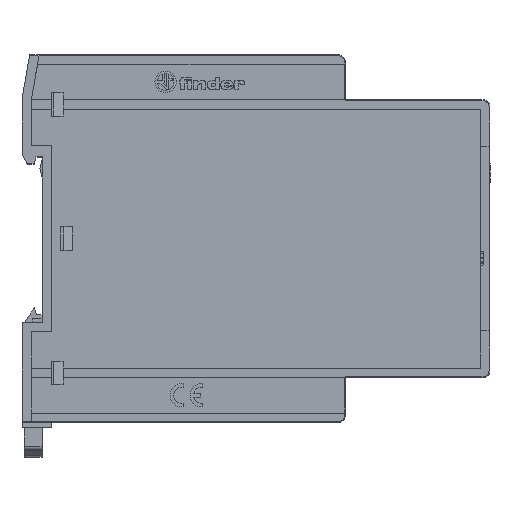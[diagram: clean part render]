
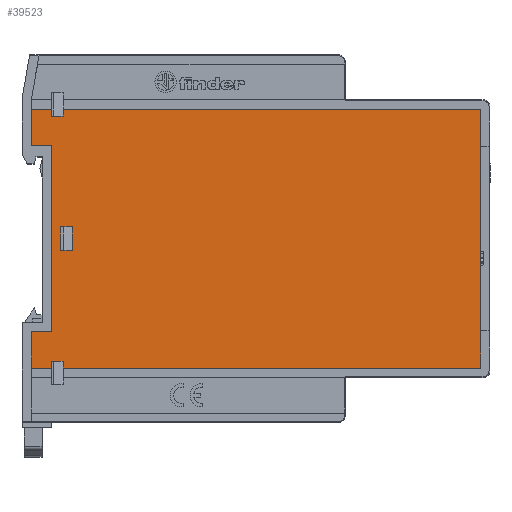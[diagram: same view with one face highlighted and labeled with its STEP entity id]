
A CAD part, top view. The second image highlights one B-rep face of the part: STEP entity #39523.
In plain terms, the highlighted planar face has unit normal (0, 0, 1).
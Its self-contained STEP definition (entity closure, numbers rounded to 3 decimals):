
#9198=ORIENTED_EDGE('',*,*,#16079,.F.);
#9199=ORIENTED_EDGE('',*,*,#16080,.T.);
#9200=ORIENTED_EDGE('',*,*,#16081,.F.);
#9201=ORIENTED_EDGE('',*,*,#16082,.T.);
#9202=ORIENTED_EDGE('',*,*,#16083,.F.);
#9203=ORIENTED_EDGE('',*,*,#16084,.T.);
#9204=ORIENTED_EDGE('',*,*,#16085,.F.);
#9205=ORIENTED_EDGE('',*,*,#16086,.T.);
#9206=ORIENTED_EDGE('',*,*,#16087,.F.);
#9207=ORIENTED_EDGE('',*,*,#16088,.T.);
#9208=ORIENTED_EDGE('',*,*,#16089,.F.);
#9209=ORIENTED_EDGE('',*,*,#16068,.T.);
#9210=ORIENTED_EDGE('',*,*,#16090,.T.);
#9211=ORIENTED_EDGE('',*,*,#16076,.T.);
#9212=ORIENTED_EDGE('',*,*,#16091,.F.);
#9213=ORIENTED_EDGE('',*,*,#16092,.F.);
#9214=ORIENTED_EDGE('',*,*,#16093,.T.);
#9215=ORIENTED_EDGE('',*,*,#16094,.F.);
#9216=ORIENTED_EDGE('',*,*,#16095,.F.);
#9217=ORIENTED_EDGE('',*,*,#16096,.F.);
#16068=EDGE_CURVE('',#21258,#21259,#26995,.T.);
#16076=EDGE_CURVE('',#21260,#21261,#27003,.T.);
#16079=EDGE_CURVE('',#21262,#21263,#27006,.T.);
#16080=EDGE_CURVE('',#21262,#21264,#27007,.T.);
#16081=EDGE_CURVE('',#21265,#21264,#27008,.T.);
#16082=EDGE_CURVE('',#21265,#21266,#27009,.T.);
#16083=EDGE_CURVE('',#21267,#21266,#27010,.T.);
#16084=EDGE_CURVE('',#21267,#21268,#27011,.T.);
#16085=EDGE_CURVE('',#21269,#21268,#27012,.T.);
#16086=EDGE_CURVE('',#21269,#21270,#27013,.T.);
#16087=EDGE_CURVE('',#21271,#21270,#27014,.T.);
#16088=EDGE_CURVE('',#21271,#21272,#27015,.T.);
#16089=EDGE_CURVE('',#21258,#21272,#27016,.T.);
#16090=EDGE_CURVE('',#21259,#21260,#27017,.T.);
#16091=EDGE_CURVE('',#21273,#21261,#27018,.T.);
#16092=EDGE_CURVE('',#21263,#21273,#27019,.T.);
#16093=EDGE_CURVE('',#21274,#21275,#27020,.T.);
#16094=EDGE_CURVE('',#21276,#21275,#27021,.T.);
#16095=EDGE_CURVE('',#21277,#21276,#27022,.T.);
#16096=EDGE_CURVE('',#21274,#21277,#27023,.T.);
#21258=VERTEX_POINT('',#66836);
#21259=VERTEX_POINT('',#66837);
#21260=VERTEX_POINT('',#66846);
#21261=VERTEX_POINT('',#66848);
#21262=VERTEX_POINT('',#66856);
#21263=VERTEX_POINT('',#66857);
#21264=VERTEX_POINT('',#66859);
#21265=VERTEX_POINT('',#66861);
#21266=VERTEX_POINT('',#66863);
#21267=VERTEX_POINT('',#66865);
#21268=VERTEX_POINT('',#66867);
#21269=VERTEX_POINT('',#66869);
#21270=VERTEX_POINT('',#66871);
#21271=VERTEX_POINT('',#66873);
#21272=VERTEX_POINT('',#66875);
#21273=VERTEX_POINT('',#66879);
#21274=VERTEX_POINT('',#66882);
#21275=VERTEX_POINT('',#66883);
#21276=VERTEX_POINT('',#66885);
#21277=VERTEX_POINT('',#66887);
#26995=LINE('',#66835,#32805);
#27003=LINE('',#66849,#32813);
#27006=LINE('',#66855,#32816);
#27007=LINE('',#66858,#32817);
#27008=LINE('',#66860,#32818);
#27009=LINE('',#66862,#32819);
#27010=LINE('',#66864,#32820);
#27011=LINE('',#66866,#32821);
#27012=LINE('',#66868,#32822);
#27013=LINE('',#66870,#32823);
#27014=LINE('',#66872,#32824);
#27015=LINE('',#66874,#32825);
#27016=LINE('',#66876,#32826);
#27017=LINE('',#66877,#32827);
#27018=LINE('',#66878,#32828);
#27019=LINE('',#66880,#32829);
#27020=LINE('',#66881,#32830);
#27021=LINE('',#66884,#32831);
#27022=LINE('',#66886,#32832);
#27023=LINE('',#66888,#32833);
#32805=VECTOR('',#51978,1000.);
#32813=VECTOR('',#51990,1000.);
#32816=VECTOR('',#51999,1000.);
#32817=VECTOR('',#52000,1000.);
#32818=VECTOR('',#52001,1000.);
#32819=VECTOR('',#52002,1000.);
#32820=VECTOR('',#52003,1000.);
#32821=VECTOR('',#52004,1000.);
#32822=VECTOR('',#52005,1000.);
#32823=VECTOR('',#52006,1000.);
#32824=VECTOR('',#52007,1000.);
#32825=VECTOR('',#52008,1000.);
#32826=VECTOR('',#52009,1000.);
#32827=VECTOR('',#52010,1000.);
#32828=VECTOR('',#52011,1000.);
#32829=VECTOR('',#52012,1000.);
#32830=VECTOR('',#52013,1000.);
#32831=VECTOR('',#52014,1000.);
#32832=VECTOR('',#52015,1000.);
#32833=VECTOR('',#52016,1000.);
#34816=EDGE_LOOP('',(#9198,#9199,#9200,#9201,#9202,#9203,#9204,#9205,#9206,
#9207,#9208,#9209,#9210,#9211,#9212,#9213));
#34817=EDGE_LOOP('',(#9214,#9215,#9216,#9217));
#36511=FACE_BOUND('',#34816,.T.);
#36512=FACE_BOUND('',#34817,.T.);
#37937=PLANE('',#42603);
#39523=ADVANCED_FACE('',(#36511,#36512),#37937,.T.);
#42603=AXIS2_PLACEMENT_3D('',#66854,#51997,#51998);
#51978=DIRECTION('',(1.,0.,0.));
#51990=DIRECTION('',(-1.,0.,0.));
#51997=DIRECTION('',(0.,0.,1.));
#51998=DIRECTION('',(1.,0.,0.));
#51999=DIRECTION('',(0.,-1.,0.));
#52000=DIRECTION('',(-1.,0.,0.));
#52001=DIRECTION('',(0.,1.,0.));
#52002=DIRECTION('',(1.,0.,0.));
#52003=DIRECTION('',(0.,1.,0.));
#52004=DIRECTION('',(-1.,0.,0.));
#52005=DIRECTION('',(0.,1.,0.));
#52006=DIRECTION('',(1.,0.,0.));
#52007=DIRECTION('',(0.,-1.,0.));
#52008=DIRECTION('',(1.,0.,0.));
#52009=DIRECTION('',(0.,1.,0.));
#52010=DIRECTION('',(0.,1.,0.));
#52011=DIRECTION('',(0.,1.,0.));
#52012=DIRECTION('',(1.,0.,0.));
#52013=DIRECTION('',(1.,0.,0.));
#52014=DIRECTION('',(0.,1.,0.));
#52015=DIRECTION('',(1.,0.,0.));
#52016=DIRECTION('',(0.,-1.,0.));
#66835=CARTESIAN_POINT('',(-41.5,-27.75,22.5));
#66836=CARTESIAN_POINT('',(-41.5,-27.75,22.5));
#66837=CARTESIAN_POINT('',(48.,-27.75,22.5));
#66846=CARTESIAN_POINT('',(48.,27.75,22.5));
#66848=CARTESIAN_POINT('',(-41.5,27.75,22.5));
#66849=CARTESIAN_POINT('',(48.,27.75,22.5));
#66854=CARTESIAN_POINT('',(-50.188,28.787,22.5));
#66855=CARTESIAN_POINT('',(-44.,27.75,22.5));
#66856=CARTESIAN_POINT('',(-44.,27.75,22.5));
#66857=CARTESIAN_POINT('',(-44.,26.25,22.5));
#66858=CARTESIAN_POINT('',(-43.243,27.75,22.5));
#66859=CARTESIAN_POINT('',(-48.3,27.75,22.5));
#66860=CARTESIAN_POINT('',(-48.3,20.,22.5));
#66861=CARTESIAN_POINT('',(-48.3,20.,22.5));
#66862=CARTESIAN_POINT('',(-48.3,20.,22.5));
#66863=CARTESIAN_POINT('',(-44.,20.,22.5));
#66864=CARTESIAN_POINT('',(-44.,-20.,22.5));
#66865=CARTESIAN_POINT('',(-44.,-20.,22.5));
#66866=CARTESIAN_POINT('',(-44.,-20.,22.5));
#66867=CARTESIAN_POINT('',(-48.3,-20.,22.5));
#66868=CARTESIAN_POINT('',(-48.3,-27.75,22.5));
#66869=CARTESIAN_POINT('',(-48.3,-27.75,22.5));
#66870=CARTESIAN_POINT('',(-48.3,-27.75,22.5));
#66871=CARTESIAN_POINT('',(-44.,-27.75,22.5));
#66872=CARTESIAN_POINT('',(-44.,-26.25,22.5));
#66873=CARTESIAN_POINT('',(-44.,-26.25,22.5));
#66874=CARTESIAN_POINT('',(-44.,-26.25,22.5));
#66875=CARTESIAN_POINT('',(-41.5,-26.25,22.5));
#66876=CARTESIAN_POINT('',(-41.5,-27.75,22.5));
#66877=CARTESIAN_POINT('',(48.,-27.75,22.5));
#66878=CARTESIAN_POINT('',(-41.5,26.25,22.5));
#66879=CARTESIAN_POINT('',(-41.5,26.25,22.5));
#66880=CARTESIAN_POINT('',(-44.,26.25,22.5));
#66881=CARTESIAN_POINT('',(-42.,2.5,22.5));
#66882=CARTESIAN_POINT('',(-42.,2.5,22.5));
#66883=CARTESIAN_POINT('',(-39.5,2.5,22.5));
#66884=CARTESIAN_POINT('',(-39.5,-2.5,22.5));
#66885=CARTESIAN_POINT('',(-39.5,-2.5,22.5));
#66886=CARTESIAN_POINT('',(-42.,-2.5,22.5));
#66887=CARTESIAN_POINT('',(-42.,-2.5,22.5));
#66888=CARTESIAN_POINT('',(-42.,2.5,22.5));
